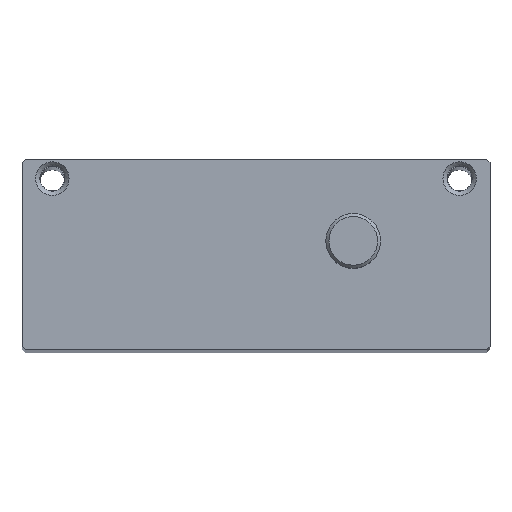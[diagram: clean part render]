
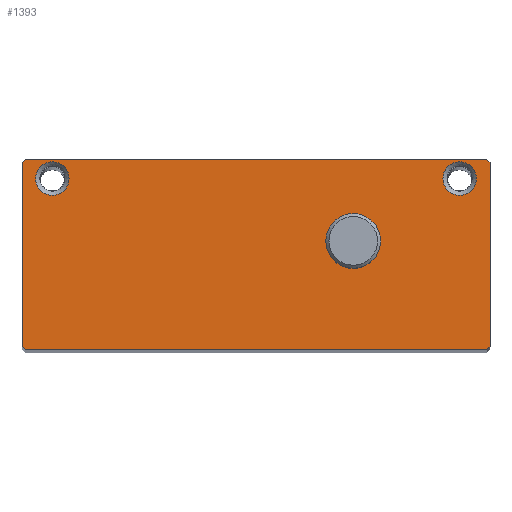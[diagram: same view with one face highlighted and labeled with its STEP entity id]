
A CAD part, top view. The second image highlights one B-rep face of the part: STEP entity #1393.
In plain terms, the highlighted planar face has unit normal (0, 0, 1).
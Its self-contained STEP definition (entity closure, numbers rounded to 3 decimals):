
#15=FACE_BOUND('',#214,.T.);
#16=FACE_BOUND('',#215,.T.);
#17=FACE_BOUND('',#216,.T.);
#49=PLANE('',#1516);
#114=FACE_OUTER_BOUND('',#213,.T.);
#213=EDGE_LOOP('',(#979,#980,#981,#982,#983,#984,#985,#986));
#214=EDGE_LOOP('',(#987));
#215=EDGE_LOOP('',(#988));
#216=EDGE_LOOP('',(#989));
#340=LINE('',#2203,#444);
#344=LINE('',#2211,#448);
#347=LINE('',#2217,#451);
#348=LINE('',#2219,#452);
#349=LINE('',#2221,#453);
#350=LINE('',#2223,#454);
#351=LINE('',#2225,#455);
#352=LINE('',#2226,#456);
#444=VECTOR('',#1718,10.);
#448=VECTOR('',#1724,10.);
#451=VECTOR('',#1729,10.);
#452=VECTOR('',#1730,10.);
#453=VECTOR('',#1731,10.);
#454=VECTOR('',#1732,10.);
#455=VECTOR('',#1733,10.);
#456=VECTOR('',#1734,10.);
#549=CIRCLE('',#1512,4.5);
#550=CIRCLE('',#1517,2.75);
#551=CIRCLE('',#1518,2.75);
#641=VERTEX_POINT('',#2196);
#642=VERTEX_POINT('',#2201);
#643=VERTEX_POINT('',#2202);
#646=VERTEX_POINT('',#2210);
#648=VERTEX_POINT('',#2216);
#649=VERTEX_POINT('',#2218);
#650=VERTEX_POINT('',#2220);
#651=VERTEX_POINT('',#2222);
#652=VERTEX_POINT('',#2224);
#653=VERTEX_POINT('',#2227);
#654=VERTEX_POINT('',#2229);
#769=EDGE_CURVE('',#641,#641,#549,.T.);
#770=EDGE_CURVE('',#642,#643,#340,.T.);
#774=EDGE_CURVE('',#643,#646,#344,.T.);
#777=EDGE_CURVE('',#642,#648,#347,.T.);
#778=EDGE_CURVE('',#649,#648,#348,.T.);
#779=EDGE_CURVE('',#649,#650,#349,.T.);
#780=EDGE_CURVE('',#651,#650,#350,.T.);
#781=EDGE_CURVE('',#652,#651,#351,.T.);
#782=EDGE_CURVE('',#646,#652,#352,.T.);
#783=EDGE_CURVE('',#653,#653,#550,.T.);
#784=EDGE_CURVE('',#654,#654,#551,.T.);
#979=ORIENTED_EDGE('',*,*,#770,.F.);
#980=ORIENTED_EDGE('',*,*,#777,.T.);
#981=ORIENTED_EDGE('',*,*,#778,.F.);
#982=ORIENTED_EDGE('',*,*,#779,.T.);
#983=ORIENTED_EDGE('',*,*,#780,.F.);
#984=ORIENTED_EDGE('',*,*,#781,.F.);
#985=ORIENTED_EDGE('',*,*,#782,.F.);
#986=ORIENTED_EDGE('',*,*,#774,.F.);
#987=ORIENTED_EDGE('',*,*,#769,.T.);
#988=ORIENTED_EDGE('',*,*,#783,.T.);
#989=ORIENTED_EDGE('',*,*,#784,.T.);
#1393=ADVANCED_FACE('',(#114,#15,#16,#17),#49,.T.);
#1512=AXIS2_PLACEMENT_3D('',#2198,#1712,#1713);
#1516=AXIS2_PLACEMENT_3D('',#2215,#1727,#1728);
#1517=AXIS2_PLACEMENT_3D('',#2228,#1735,#1736);
#1518=AXIS2_PLACEMENT_3D('',#2230,#1737,#1738);
#1712=DIRECTION('center_axis',(0.,0.,-1.));
#1713=DIRECTION('ref_axis',(1.,0.,0.));
#1718=DIRECTION('',(-0.707,0.707,0.));
#1724=DIRECTION('',(0.,1.,0.));
#1727=DIRECTION('center_axis',(0.,0.,1.));
#1728=DIRECTION('ref_axis',(1.,0.,0.));
#1729=DIRECTION('',(1.,0.,0.));
#1730=DIRECTION('',(-0.707,-0.707,0.));
#1731=DIRECTION('',(0.,1.,0.));
#1732=DIRECTION('',(0.707,-0.707,0.));
#1733=DIRECTION('',(1.,0.,0.));
#1734=DIRECTION('',(0.707,0.707,0.));
#1735=DIRECTION('center_axis',(0.,0.,-1.));
#1736=DIRECTION('ref_axis',(1.,0.,0.));
#1737=DIRECTION('center_axis',(0.,0.,-1.));
#1738=DIRECTION('ref_axis',(1.,0.,0.));
#2196=CARTESIAN_POINT('',(9.,26.5,0.));
#2198=CARTESIAN_POINT('Origin',(13.5,26.5,0.));
#2201=CARTESIAN_POINT('',(-40.5,8.7,0.));
#2202=CARTESIAN_POINT('',(-41.,9.2,0.));
#2203=CARTESIAN_POINT('',(-40.75,8.95,0.));
#2210=CARTESIAN_POINT('',(-41.,39.5,0.));
#2211=CARTESIAN_POINT('',(-41.,8.7,0.));
#2215=CARTESIAN_POINT('Origin',(-41.,8.7,0.));
#2216=CARTESIAN_POINT('',(35.5,8.7,0.));
#2217=CARTESIAN_POINT('',(-41.,8.7,0.));
#2218=CARTESIAN_POINT('',(36.,9.2,0.));
#2219=CARTESIAN_POINT('',(16.5,-10.3,0.));
#2220=CARTESIAN_POINT('',(36.,39.5,0.));
#2221=CARTESIAN_POINT('',(36.,8.7,0.));
#2222=CARTESIAN_POINT('',(35.5,40.,0.));
#2223=CARTESIAN_POINT('',(24.325,51.175,0.));
#2224=CARTESIAN_POINT('',(-40.5,40.,0.));
#2225=CARTESIAN_POINT('',(-41.,40.,0.));
#2226=CARTESIAN_POINT('',(-48.575,31.925,0.));
#2227=CARTESIAN_POINT('',(28.25,36.8,0.));
#2228=CARTESIAN_POINT('Origin',(31.,36.8,0.));
#2229=CARTESIAN_POINT('',(-38.75,36.8,0.));
#2230=CARTESIAN_POINT('Origin',(-36.,36.8,0.));
